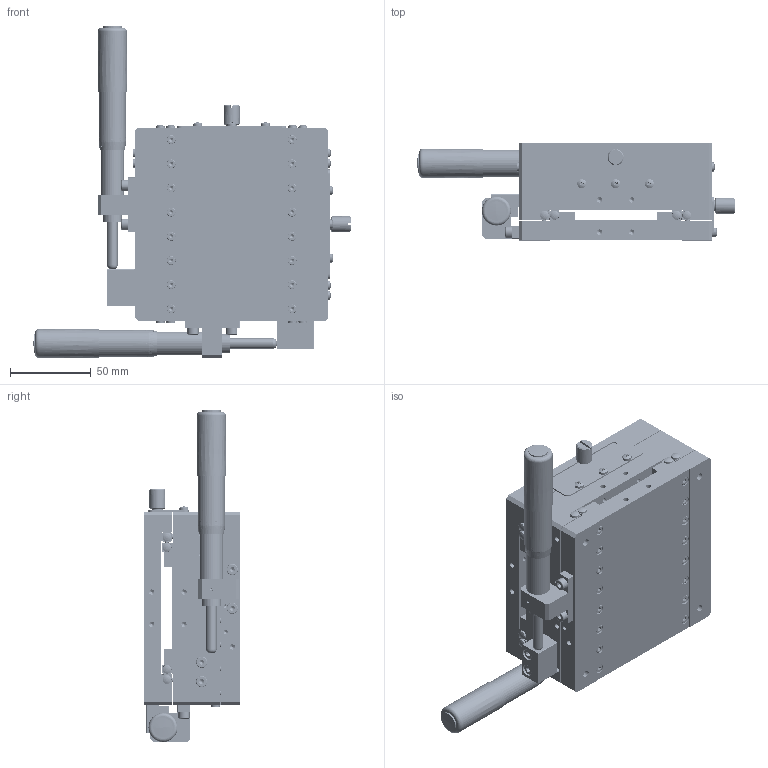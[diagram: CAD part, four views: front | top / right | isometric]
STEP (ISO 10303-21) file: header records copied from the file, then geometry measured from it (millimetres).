
FILE_DESCRIPTION (( 'STEP AP203' ), '1' );
FILE_NAME ('BPB120.STEP', '2024-01-04T06:45:06', ( 'China' ), ( 'Microsoft' ), 'SwSTEP 2.0', 'SolidWorks 2024', '' );
FILE_SCHEMA (( 'CONFIG_CONTROL_DESIGN' ));
Products named in the file (1): BPB120
Bounding box: 196.8 x 60 x 206 mm (x, y, z)
Volume: 831100.7 mm3; surface area: 274844.1 mm2
Topology: 140 solids, 140 shells, 8332 faces, 20848 edges, 13008 vertices
Faces by surface type: plane 3022, cylinder 1852, bspline 1646, cone 1548, torus 248, sphere 16
Entity records: 332763 total; most frequent: CARTESIAN_POINT 148145, ORIENTED_EDGE 40872, DIRECTION 33350, EDGE_CURVE 20436, VERTEX_POINT 13008, AXIS2_PLACEMENT_3D 12503, EDGE_LOOP 9672, VECTOR 8344
